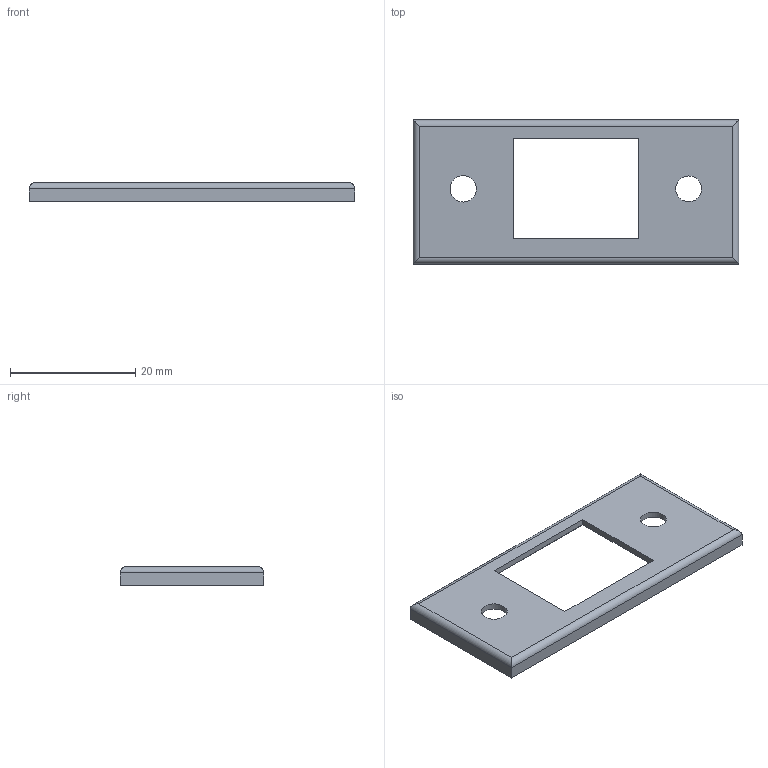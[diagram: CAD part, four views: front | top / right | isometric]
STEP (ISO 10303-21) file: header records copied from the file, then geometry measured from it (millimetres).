
FILE_DESCRIPTION(('FreeCAD Model'),'2;1');
FILE_NAME('Open CASCADE Shape Model','2021-12-15T16:05:55',('Author'),( ''),'Open CASCADE STEP processor 7.5','FreeCAD','Unknown');
FILE_SCHEMA(('AUTOMOTIVE_DESIGN { 1 0 10303 214 1 1 1 1 }'));
Length unit declared in the file: millimetre
Products named in the file (1): Body
Bounding box: 52 x 23 x 3 mm (x, y, z)
Volume: 1109 mm3; surface area: 2464.8 mm2
Topology: 1 solids, 1 shells, 21 faces, 50 edges, 32 vertices
Faces by surface type: plane 15, cylinder 6
Full cylindrical faces by diameter (mm): 4.124 x1, 4.202 x1
Entity records: 1330 total; most frequent: CARTESIAN_POINT 272, DIRECTION 192, LINE 130, VECTOR 130, ORIENTED_EDGE 100, PCURVE 100, DEFINITIONAL_REPRESENTATION 100, EDGE_CURVE 50
